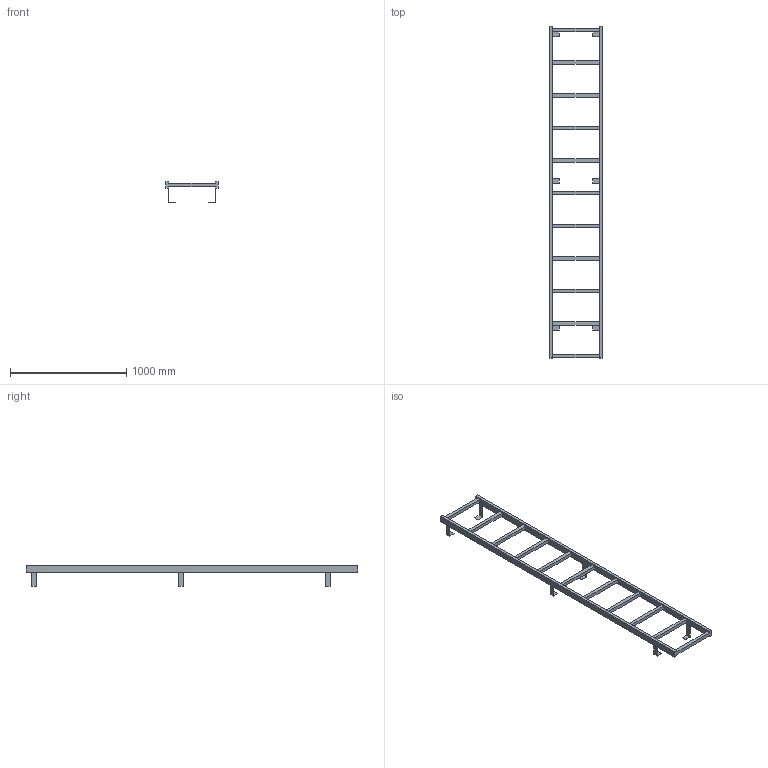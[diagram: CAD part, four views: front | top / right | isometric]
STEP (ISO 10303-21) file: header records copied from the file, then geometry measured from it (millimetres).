
FILE_DESCRIPTION((''),'2;1');
FILE_NAME('017_000109','2017-06-19T',('set'),('HUBER SE'),'PRO/ENGINEER BY PARAMETRIC TECHNOLOGY CORPORATION, 2015280','PRO/ENGINEER BY PARAMETRIC TECHNOLOGY CORPORATION, 2015280','');
FILE_SCHEMA(('CONFIG_CONTROL_DESIGN'));
Length unit declared in the file: millimetre
Products named in the file (1): 017_000109
Bounding box: 450 x 2850 x 178.5 mm (x, y, z)
Volume: 12179940 mm3; surface area: 1538052 mm2
Topology: 1 solids, 1 shells, 102 faces, 397 edges, 293 vertices
Faces by surface type: plane 102
Entity records: 4018 total; most frequent: CARTESIAN_POINT 844, ORIENTED_EDGE 592, DIRECTION 578, VECTOR 350, LINE 350, EDGE_CURVE 296, VERTEX_POINT 192, EDGE_LOOP 118
